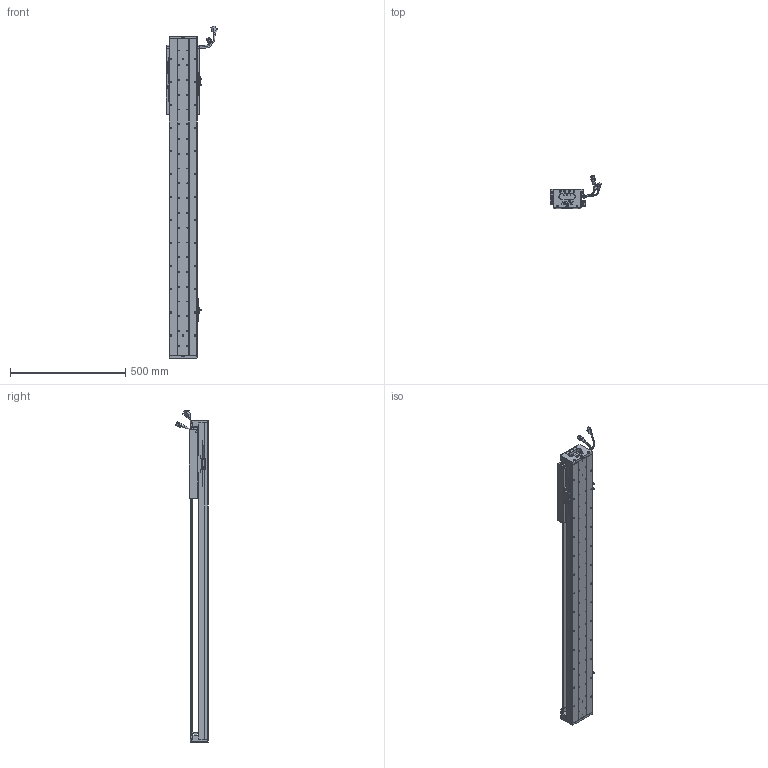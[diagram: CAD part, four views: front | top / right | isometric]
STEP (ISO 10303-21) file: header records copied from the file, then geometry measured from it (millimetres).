
FILE_DESCRIPTION (( 'STEP AP203' ), '1' );
FILE_NAME ('Z4-RY120D-1-L500-B-K.SLDASM_1000.step', '2021-05-17T06:06:57', ( '盈信电脑' ), ( '东莞市道滘镇水果街19号' ), 'SwSTEP 2.0', 'SolidWorks 2016', '' );
FILE_SCHEMA (( 'CONFIG_CONTROL_DESIGN' ));
Length unit declared in the file: millimetre
Products named in the file (37): COVER; SCREW-M1.6-1; 672嫖萇羲壽假蚾釱; HARNESS-Part-2; SCREW-M1.7; Z4-RY120铝滑块（21款）; SCALE; HARNESS-Part-1; Z4-RY120D-1-L500-B-K.SLDASM_1000; Z-RY120D詩湍狟揤裔; HOLDER0; Z4-RY120-L500詩湍100mm遵_1000; 080黍杅芛假蚾釱21遴; SCALE-Part-1; SEAL; SHIELDPLATE; 榋妏寠巭燃_暯_M2_2; LABEL-Part-1; 140蚥薯蝶輸; SCREW-M1.6-3; Z-120詩湍傷裔啣; PSLH080_PSLF2; LABEL; COVER-Part-1; SCALE-Part-2; 120-Z-臏賑輸盄裔(21遴); SCREW-M1.6; SEAL-Part-1; SCREW-M1.6-2; RY100FB-遵嫖萇覜茼え; SCREW-M1.7-1; Z4-RY120-500-倰第菁釱_1000; 140雄赽晤鎢ん堤盄; HARNESS; 覜茼ん672; Z-RY120D詩湍奻揤裔; PBU_SHEET
Assembly tree (43 placements, depth 4):
  Z4-RY120D-1-L500-B-K.SLDASM_1000
    Z4-RY120-500-倰第菁釱_1000
    覜茼ん672  x3
    672嫖萇羲壽假蚾釱  x2
    Z4-RY120铝滑块（21款）
    PSLH080_PSLF2
      SCALE
        SCALE-Part-1
        SCALE-Part-2
      HARNESS
        HARNESS-Part-1
        HARNESS-Part-2
      LABEL
        LABEL-Part-1
      COVER
        COVER-Part-1
      SEAL
        SEAL-Part-1
      榋妏寠巭燃_暯_M2_2
      SHIELDPLATE
      SCREW-M1.7
      SCREW-M1.7-1
      PBU_SHEET
      SCREW-M1.6
      SCREW-M1.6-1
      SCREW-M1.6-2
      SCREW-M1.6-3
      HOLDER0
    080黍杅芛假蚾釱21遴
    120-Z-臏賑輸盄裔(21遴)
    140雄赽晤鎢ん堤盄
    140蚥薯蝶輸  x2
    RY100FB-遵嫖萇覜茼え
    Z-120詩湍傷裔啣  x2
    Z-RY120D詩湍奻揤裔  x2
    Z-RY120D詩湍狟揤裔  x2
    Z4-RY120-L500詩湍100mm遵_1000
Bounding box: 222.88 x 140.94 x 1438.99 mm (x, y, z)
Volume: 3969659.5 mm3; surface area: 1311956.4 mm2
Topology: 38 solids, 38 shells, 2989 faces, 8176 edges, 5160 vertices
Faces by surface type: cylinder 1420, plane 1145, cone 302, torus 69, bspline 53
Entity records: 92241 total; most frequent: CARTESIAN_POINT 25454, ORIENTED_EDGE 13272, DIRECTION 12854, EDGE_CURVE 6636, AXIS2_PLACEMENT_3D 4722, VERTEX_POINT 4280, LINE 3410, VECTOR 3410
